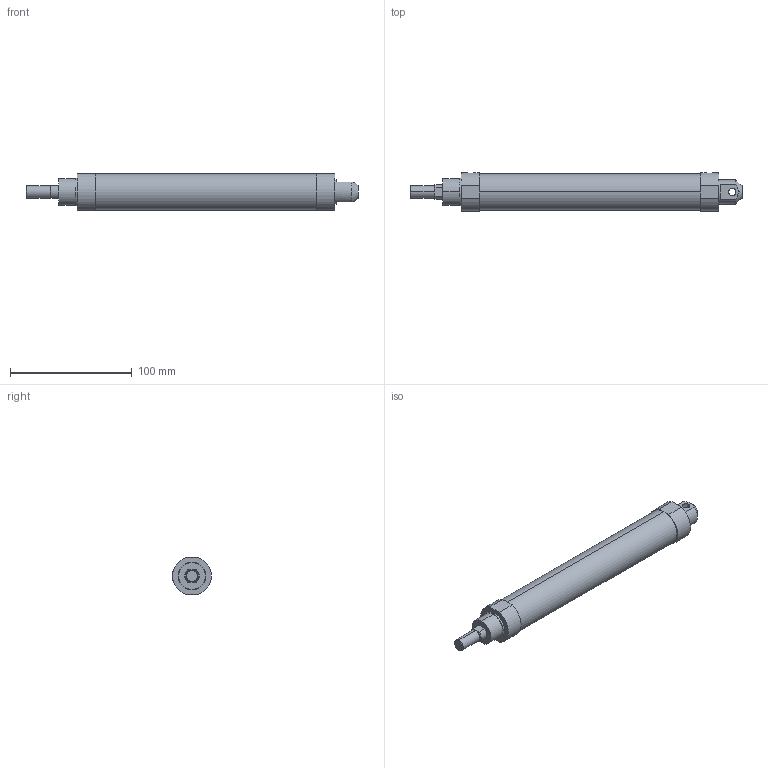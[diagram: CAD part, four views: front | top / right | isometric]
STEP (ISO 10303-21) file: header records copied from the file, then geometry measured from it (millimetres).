
FILE_DESCRIPTION (( 'STEP AP203' ), '1' );
FILE_NAME ('J#2-25-150-C.STEP', '2016-03-08T07:27:02', ( '' ), ( '' ), 'SwSTEP 2.0', 'SolidWorks 2014', '' );
FILE_SCHEMA (( 'CONFIG_CONTROL_DESIGN' ));
Length unit declared in the file: millimetre
Products named in the file (1): J#2-25-150-C
Bounding box: 273 x 32 x 30 mm (x, y, z)
Volume: 163036.9 mm3; surface area: 25853.3 mm2
Topology: 1 solids, 1 shells, 52 faces, 118 edges, 74 vertices
Faces by surface type: plane 24, cylinder 22, cone 6
Entity records: 1701 total; most frequent: CARTESIAN_POINT 429, DIRECTION 262, ORIENTED_EDGE 236, EDGE_CURVE 118, AXIS2_PLACEMENT_3D 103, VERTEX_POINT 74, EDGE_LOOP 60, LINE 56
